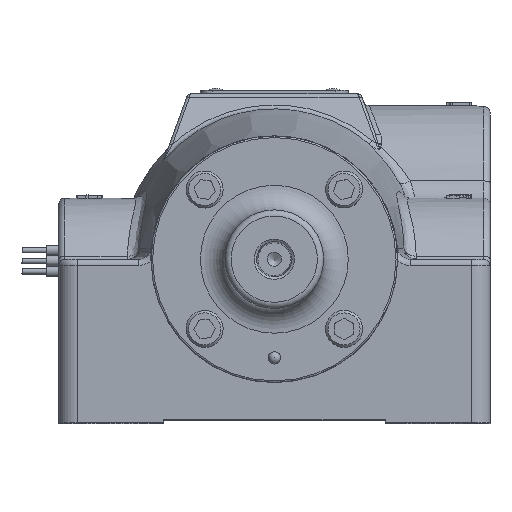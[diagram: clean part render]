
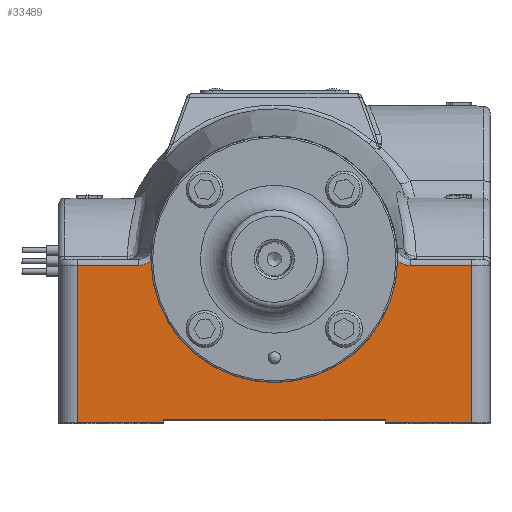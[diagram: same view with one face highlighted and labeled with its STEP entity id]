
A CAD part, top view. The second image highlights one B-rep face of the part: STEP entity #33489.
In plain terms, the highlighted planar face has unit normal (0, 0, 1).
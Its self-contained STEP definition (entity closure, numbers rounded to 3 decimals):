
#929=B_SPLINE_CURVE_WITH_KNOTS('',3,(#60582,#60583,#60584,#60585,#60586),
 .UNSPECIFIED.,.F.,.F.,(4,1,4),(0.,0.291,0.347),
 .UNSPECIFIED.);
#936=B_SPLINE_CURVE_WITH_KNOTS('',3,(#60764,#60765,#60766,#60767),
 .UNSPECIFIED.,.F.,.F.,(4,4),(0.356,0.703),
 .UNSPECIFIED.);
#2635=LINE('',#59310,#4229);
#2701=LINE('',#60348,#4295);
#2706=LINE('',#60361,#4300);
#2709=LINE('',#60365,#4303);
#2710=LINE('',#60367,#4304);
#2722=LINE('',#60419,#4316);
#2728=LINE('',#60476,#4322);
#2730=LINE('',#60650,#4324);
#2738=LINE('',#60886,#4332);
#4229=VECTOR('',#41313,2.223);
#4295=VECTOR('',#41565,5.715);
#4300=VECTOR('',#41578,2.223);
#4303=VECTOR('',#41583,0.079);
#4304=VECTOR('',#41586,0.079);
#4316=VECTOR('',#41626,4.048);
#4322=VECTOR('',#41704,1.583);
#4324=VECTOR('',#41712,1.583);
#4332=VECTOR('',#41808,4.048);
#7526=FACE_OUTER_BOUND('',#9876,.T.);
#9876=EDGE_LOOP('',(#25310,#25311,#25312,#25313,#25314,#25315,#25316,#25317,
#25318,#25319,#25320,#25321));
#12084=CIRCLE('',#36163,3.178);
#14064=VERTEX_POINT('',#59294);
#14070=VERTEX_POINT('',#59308);
#14127=VERTEX_POINT('',#60345);
#14128=VERTEX_POINT('',#60347);
#14130=VERTEX_POINT('',#60357);
#14132=VERTEX_POINT('',#60360);
#14149=VERTEX_POINT('',#60418);
#14163=VERTEX_POINT('',#60472);
#14167=VERTEX_POINT('',#60554);
#14172=VERTEX_POINT('',#60643);
#14175=VERTEX_POINT('',#60648);
#14197=VERTEX_POINT('',#60743);
#17656=EDGE_CURVE('',#14064,#14070,#2635,.T.);
#17781=EDGE_CURVE('',#14128,#14127,#2701,.T.);
#17787=EDGE_CURVE('',#14132,#14130,#2706,.T.);
#17790=EDGE_CURVE('',#14070,#14128,#2709,.T.);
#17791=EDGE_CURVE('',#14127,#14132,#2710,.T.);
#17813=EDGE_CURVE('',#14064,#14149,#2722,.T.);
#17842=EDGE_CURVE('',#14149,#14163,#2728,.T.);
#17847=EDGE_CURVE('',#14163,#14167,#929,.T.);
#17856=EDGE_CURVE('',#14175,#14172,#2730,.T.);
#17892=EDGE_CURVE('',#14197,#14175,#936,.T.);
#17903=EDGE_CURVE('',#14172,#14130,#2738,.T.);
#17961=EDGE_CURVE('',#14167,#14197,#12084,.T.);
#25310=ORIENTED_EDGE('',*,*,#17787,.T.);
#25311=ORIENTED_EDGE('',*,*,#17903,.F.);
#25312=ORIENTED_EDGE('',*,*,#17856,.F.);
#25313=ORIENTED_EDGE('',*,*,#17892,.F.);
#25314=ORIENTED_EDGE('',*,*,#17961,.F.);
#25315=ORIENTED_EDGE('',*,*,#17847,.F.);
#25316=ORIENTED_EDGE('',*,*,#17842,.F.);
#25317=ORIENTED_EDGE('',*,*,#17813,.F.);
#25318=ORIENTED_EDGE('',*,*,#17656,.T.);
#25319=ORIENTED_EDGE('',*,*,#17790,.T.);
#25320=ORIENTED_EDGE('',*,*,#17781,.T.);
#25321=ORIENTED_EDGE('',*,*,#17791,.T.);
#29966=PLANE('',#36292);
#33489=ADVANCED_FACE('',(#7526),#29966,.T.);
#36163=AXIS2_PLACEMENT_3D('',#61513,#41878,#41879);
#36292=AXIS2_PLACEMENT_3D('',#76275,#42348,#42349);
#41313=DIRECTION('',(1.,0.,0.));
#41565=DIRECTION('',(1.,0.,0.));
#41578=DIRECTION('',(1.,0.,0.));
#41583=DIRECTION('',(0.,1.,0.));
#41586=DIRECTION('',(0.,-1.,0.));
#41626=DIRECTION('',(0.,1.,0.));
#41704=DIRECTION('',(1.,0.,0.));
#41712=DIRECTION('',(1.,0.,0.));
#41808=DIRECTION('',(0.,-1.,0.));
#41878=DIRECTION('center_axis',(0.,0.,1.));
#41879=DIRECTION('ref_axis',(-1.,0.,0.));
#42348=DIRECTION('center_axis',(0.,0.,1.));
#42349=DIRECTION('ref_axis',(1.,0.,0.));
#59294=CARTESIAN_POINT('',(-5.08,-4.207,8.652));
#59308=CARTESIAN_POINT('',(-2.858,-4.207,8.652));
#59310=CARTESIAN_POINT('',(0.,-4.207,8.652));
#60345=CARTESIAN_POINT('',(2.858,-4.128,8.652));
#60347=CARTESIAN_POINT('',(-2.858,-4.128,8.652));
#60348=CARTESIAN_POINT('',(0.,-4.128,8.652));
#60357=CARTESIAN_POINT('',(5.08,-4.207,8.652));
#60360=CARTESIAN_POINT('',(2.858,-4.207,8.652));
#60361=CARTESIAN_POINT('',(0.,-4.207,8.652));
#60365=CARTESIAN_POINT('',(-2.858,-4.247,8.652));
#60367=CARTESIAN_POINT('',(2.858,-4.247,8.652));
#60418=CARTESIAN_POINT('',(-5.08,-0.159,8.652));
#60419=CARTESIAN_POINT('',(-5.08,-3.215,8.652));
#60472=CARTESIAN_POINT('',(-3.497,-0.159,8.652));
#60476=CARTESIAN_POINT('',(0.,-0.159,8.652));
#60554=CARTESIAN_POINT('',(-3.177,-0.037,8.652));
#60582=CARTESIAN_POINT('Ctrl Pts',(-3.497,-0.159,
8.652));
#60583=CARTESIAN_POINT('Ctrl Pts',(-3.4,-0.159,
8.652));
#60584=CARTESIAN_POINT('Ctrl Pts',(-3.283,-0.122,
8.652));
#60585=CARTESIAN_POINT('Ctrl Pts',(-3.192,-0.05,
8.652));
#60586=CARTESIAN_POINT('Ctrl Pts',(-3.178,-0.037,
8.652));
#60643=CARTESIAN_POINT('',(5.08,-0.159,8.652));
#60648=CARTESIAN_POINT('',(3.497,-0.159,8.652));
#60650=CARTESIAN_POINT('',(0.,-0.159,8.652));
#60743=CARTESIAN_POINT('',(3.177,-0.037,8.652));
#60764=CARTESIAN_POINT('Ctrl Pts',(3.178,-0.037,
8.652));
#60765=CARTESIAN_POINT('Ctrl Pts',(3.265,-0.114,
8.652));
#60766=CARTESIAN_POINT('Ctrl Pts',(3.381,-0.159,
8.652));
#60767=CARTESIAN_POINT('Ctrl Pts',(3.497,-0.159,
8.652));
#60886=CARTESIAN_POINT('',(5.08,-3.215,8.652));
#61513=CARTESIAN_POINT('Origin',(0.,0.,8.652));
#76275=CARTESIAN_POINT('Origin',(0.,-4.286,8.652));
